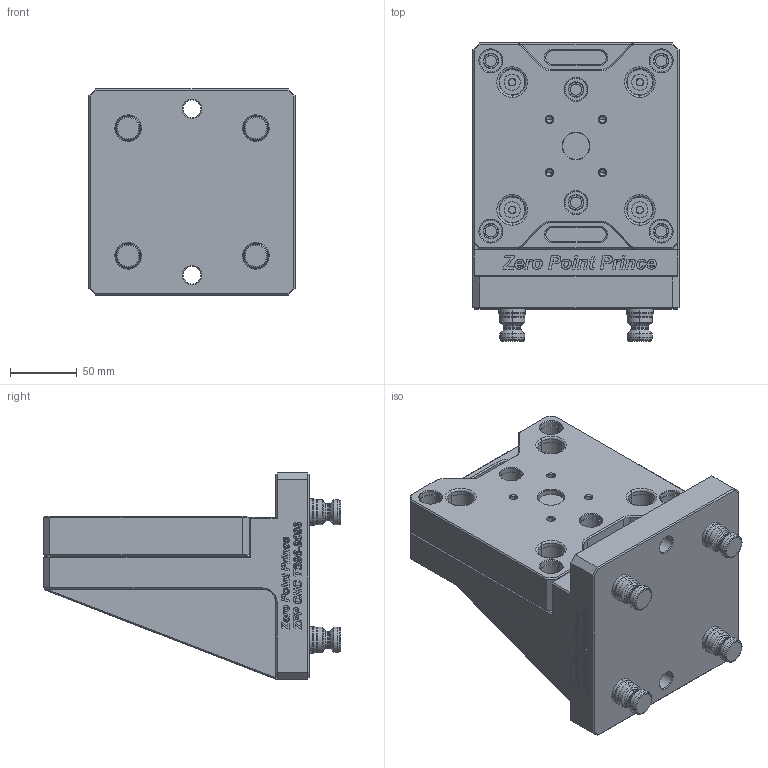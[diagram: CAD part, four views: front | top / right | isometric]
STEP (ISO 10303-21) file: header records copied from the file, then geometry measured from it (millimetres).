
FILE_DESCRIPTION((''),'2;1');
FILE_NAME('TS96-9096_ASM','2024-09-13T15:24:14',('XF'),(''),'CREO PARAMETRIC BY PTC INC, 2022073','CREO PARAMETRIC BY PTC INC, 2022073','');
FILE_SCHEMA(('CONFIG_CONTROL_DESIGN'));
Products named in the file (4): TS96-9096; TS96-155; PS20F; TS96-9096_ASM
Assembly tree (6 placements, depth 2):
  TS96-9096_ASM
    TS96-9096
    TS96-155
    PS20F  x4
Bounding box: 155 x 224 x 155 mm (x, y, z)
Volume: 2594060 mm3; surface area: 235919.5 mm2
Topology: 6 solids, 10 shells, 2672 faces, 7228 edges, 4752 vertices
Faces by surface type: extrusion 1311, plane 884, cylinder 205, cone 158, torus 104, bspline 10
Entity records: 86278 total; most frequent: CARTESIAN_POINT 26508, ORIENTED_EDGE 13824, DIRECTION 8713, EDGE_CURVE 6920, VECTOR 4893, VERTEX_POINT 4602, B_SPLINE_CURVE_WITH_KNOTS 3961, LINE 3582
